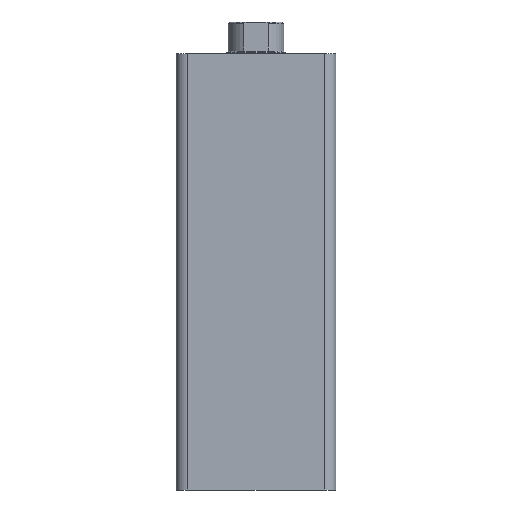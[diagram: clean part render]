
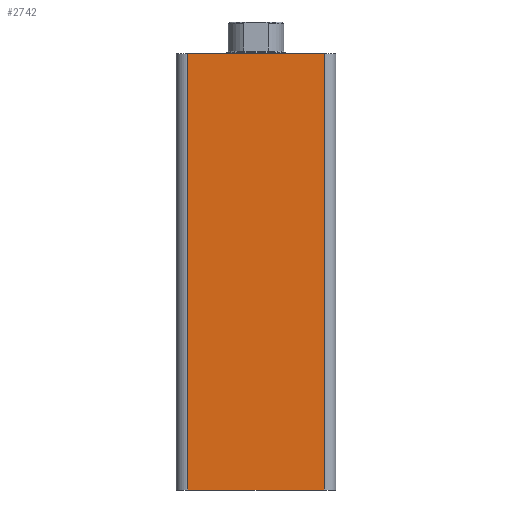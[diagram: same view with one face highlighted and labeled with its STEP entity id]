
A CAD part, front view. The second image highlights one B-rep face of the part: STEP entity #2742.
In plain terms, the highlighted planar face has unit normal (0, -1, 0).
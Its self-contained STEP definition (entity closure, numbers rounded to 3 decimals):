
#468 = EDGE_CURVE ( 'NONE', #9860, #3216, #3893, .T. ) ;
#694 = ORIENTED_EDGE ( 'NONE', *, *, #10832, .T. ) ;
#804 = VECTOR ( 'NONE', #12818, 1000. ) ;
#878 = AXIS2_PLACEMENT_3D ( 'NONE', #4165, #1047, #1181 ) ;
#1047 = DIRECTION ( 'NONE',  ( 0., 1., 0. ) ) ;
#1094 = VECTOR ( 'NONE', #12500, 1000. ) ;
#1116 = ORIENTED_EDGE ( 'NONE', *, *, #468, .F. ) ;
#1181 = DIRECTION ( 'NONE',  ( 0., 0., 1. ) ) ;
#1401 = FACE_OUTER_BOUND ( 'NONE', #4621, .T. ) ;
#1436 = VECTOR ( 'NONE', #9240, 1000. ) ;
#2742 = ADVANCED_FACE ( 'NONE', ( #1401 ), #12658, .F. ) ;
#2774 = CARTESIAN_POINT ( 'NONE',  ( 0., 0., 0. ) ) ;
#3216 = VERTEX_POINT ( 'NONE', #8574 ) ;
#3893 = LINE ( 'NONE', #8091, #1094 ) ;
#4165 = CARTESIAN_POINT ( 'NONE',  ( 0., 0., 150. ) ) ;
#4541 = LINE ( 'NONE', #7116, #1436 ) ;
#4621 = EDGE_LOOP ( 'NONE', ( #11990, #694, #1116, #13418 ) ) ;
#6017 = DIRECTION ( 'NONE',  ( 1., 0., 0. ) ) ;
#6156 = CARTESIAN_POINT ( 'NONE',  ( 51., 0., 150. ) ) ;
#6642 = LINE ( 'NONE', #2774, #7984 ) ;
#6897 = VERTEX_POINT ( 'NONE', #8445 ) ;
#7116 = CARTESIAN_POINT ( 'NONE',  ( 4., 0., 150. ) ) ;
#7984 = VECTOR ( 'NONE', #6017, 1000. ) ;
#8091 = CARTESIAN_POINT ( 'NONE',  ( 0., 0., 150. ) ) ;
#8445 = CARTESIAN_POINT ( 'NONE',  ( 51., 0., 0. ) ) ;
#8574 = CARTESIAN_POINT ( 'NONE',  ( 51., 0., 150. ) ) ;
#8677 = LINE ( 'NONE', #6156, #804 ) ;
#9240 = DIRECTION ( 'NONE',  ( 0., 0., -1. ) ) ;
#9392 = CARTESIAN_POINT ( 'NONE',  ( 4., 0., 0. ) ) ;
#9860 = VERTEX_POINT ( 'NONE', #10911 ) ;
#10832 = EDGE_CURVE ( 'NONE', #6897, #3216, #8677, .T. ) ;
#10911 = CARTESIAN_POINT ( 'NONE',  ( 4., 0., 150. ) ) ;
#11625 = VERTEX_POINT ( 'NONE', #9392 ) ;
#11990 = ORIENTED_EDGE ( 'NONE', *, *, #13250, .T. ) ;
#12030 = EDGE_CURVE ( 'NONE', #9860, #11625, #4541, .T. ) ;
#12500 = DIRECTION ( 'NONE',  ( 1., 0., 0. ) ) ;
#12658 = PLANE ( 'NONE',  #878 ) ;
#12818 = DIRECTION ( 'NONE',  ( 0., 0., 1. ) ) ;
#13250 = EDGE_CURVE ( 'NONE', #11625, #6897, #6642, .T. ) ;
#13418 = ORIENTED_EDGE ( 'NONE', *, *, #12030, .T. ) ;
